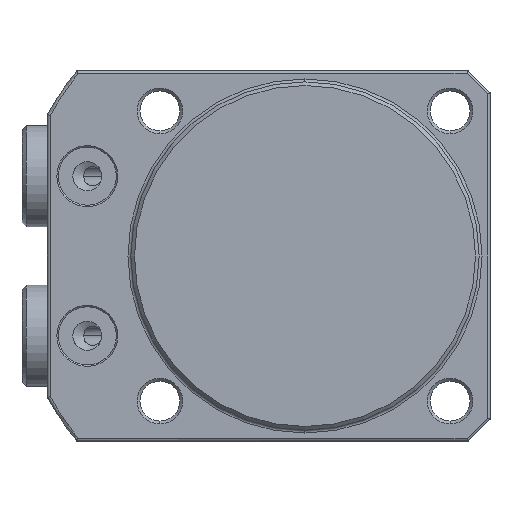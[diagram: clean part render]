
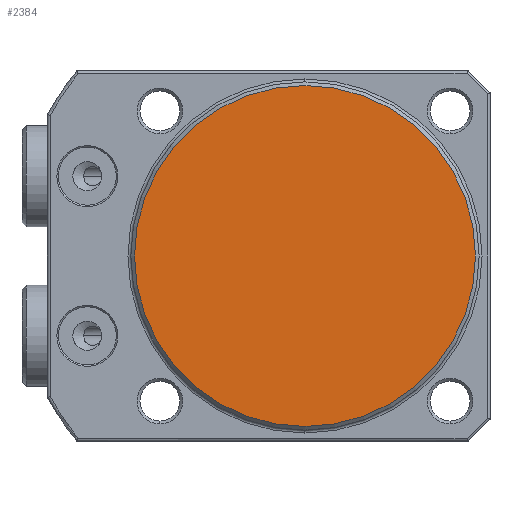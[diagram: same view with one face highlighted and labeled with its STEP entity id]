
A CAD part, front view. The second image highlights one B-rep face of the part: STEP entity #2384.
In plain terms, the highlighted planar face has unit normal (0, -1, 0) as drawn and (-1, 0, 0) by its records, which use the part's own axes.
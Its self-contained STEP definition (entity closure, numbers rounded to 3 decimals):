
#1489=PLANE('',#6533);
#2384=ADVANCED_FACE('',(#2743),#1489,.F.);
#2743=FACE_OUTER_BOUND('',#3053,.T.);
#3053=EDGE_LOOP('',(#3594));
#3594=ORIENTED_EDGE('',*,*,#5421,.T.);
#4914=VERTEX_POINT('',#8939);
#5421=EDGE_CURVE('',#4914,#4914,#6131,.T.);
#6131=CIRCLE('',#6532,23.5);
#6532=AXIS2_PLACEMENT_3D('',#8938,#7376,#7377);
#6533=AXIS2_PLACEMENT_3D('',#8940,#7378,#7379);
#7376=DIRECTION('',(-1.,0.,0.));
#7377=DIRECTION('',(0.,0.,-1.));
#7378=DIRECTION('',(1.,0.,0.));
#7379=DIRECTION('',(0.,0.,1.));
#8938=CARTESIAN_POINT('',(0.,0.,0.));
#8939=CARTESIAN_POINT('',(0.,0.,-23.5));
#8940=CARTESIAN_POINT('',(0.,0.,0.));
